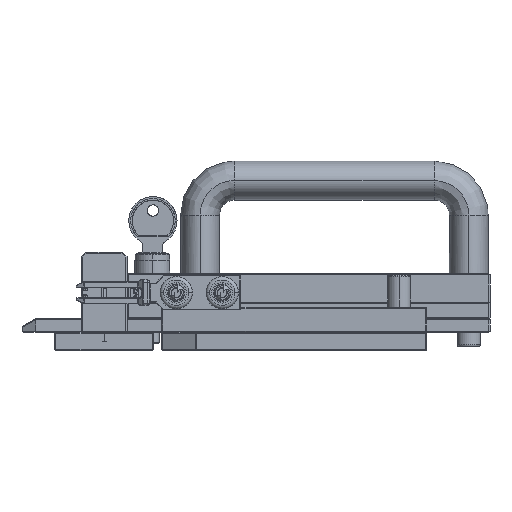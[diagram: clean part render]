
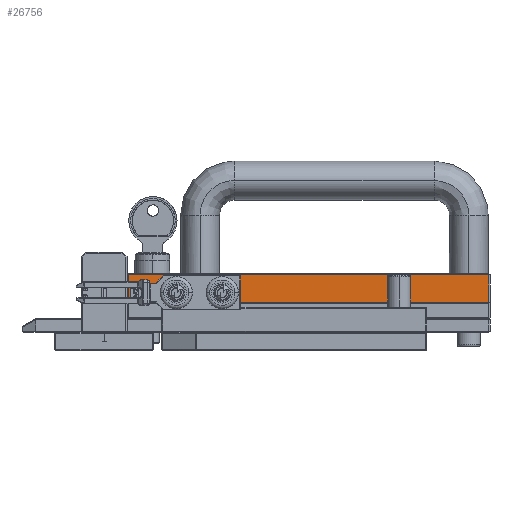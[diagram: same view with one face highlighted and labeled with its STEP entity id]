
A CAD part, front view. The second image highlights one B-rep face of the part: STEP entity #26756.
In plain terms, the highlighted planar face has unit normal (0, -1, 0) as drawn and (-1, 0, 0) by its records, which use the part's own axes.
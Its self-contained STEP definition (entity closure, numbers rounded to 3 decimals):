
#21516=DIRECTION('',(0.,0.,-1.));
#21517=VECTOR('',#21516,12.);
#21518=CARTESIAN_POINT('',(-13.,-54.875,-10.1));
#21519=LINE('',#21518,#21517);
#21523=DIRECTION('',(0.,1.,0.));
#21524=VECTOR('',#21523,157.);
#21525=CARTESIAN_POINT('',(-13.,-54.875,-22.1));
#21526=LINE('',#21525,#21524);
#21530=DIRECTION('',(0.,0.,-1.));
#21531=VECTOR('',#21530,12.);
#21532=CARTESIAN_POINT('',(-13.,102.125,-10.1));
#21533=LINE('',#21532,#21531);
#21537=DIRECTION('',(0.,1.,0.));
#21538=VECTOR('',#21537,157.);
#21539=CARTESIAN_POINT('',(-13.,-54.875,-10.1));
#21540=LINE('',#21539,#21538);
#21544=CARTESIAN_POINT('',(-13.,-13.975,-14.3));
#21545=DIRECTION('',(1.,0.,0.));
#21546=DIRECTION('',(0.,-1.,0.));
#21547=AXIS2_PLACEMENT_3D('',#21544,#21545,#21546);
#21552=CARTESIAN_POINT('',(-13.,-13.975,-14.3));
#21553=DIRECTION('',(1.,0.,0.));
#21554=DIRECTION('',(0.,1.,0.));
#21555=AXIS2_PLACEMENT_3D('',#21552,#21553,#21554);
#21560=CARTESIAN_POINT('',(-13.,-33.975,-14.3));
#21561=DIRECTION('',(1.,0.,0.));
#21562=DIRECTION('',(0.,-1.,0.));
#21563=AXIS2_PLACEMENT_3D('',#21560,#21561,#21562);
#21568=CARTESIAN_POINT('',(-13.,-33.975,-14.3));
#21569=DIRECTION('',(1.,0.,0.));
#21570=DIRECTION('',(0.,1.,0.));
#21571=AXIS2_PLACEMENT_3D('',#21568,#21569,#21570);
#24955=CARTESIAN_POINT('',(-13.,-54.875,-10.1));
#24956=CARTESIAN_POINT('',(-13.,-54.875,-22.1));
#24957=VERTEX_POINT('',#24955);
#24958=VERTEX_POINT('',#24956);
#24963=CARTESIAN_POINT('',(-13.,102.125,-10.1));
#24964=CARTESIAN_POINT('',(-13.,102.125,-22.1));
#24965=VERTEX_POINT('',#24963);
#24966=VERTEX_POINT('',#24964);
#25091=CARTESIAN_POINT('',(-13.,-16.125,-14.3));
#25092=CARTESIAN_POINT('',(-13.,-11.825,-14.3));
#25093=VERTEX_POINT('',#25091);
#25094=VERTEX_POINT('',#25092);
#25099=CARTESIAN_POINT('',(-13.,-36.125,-14.3));
#25100=CARTESIAN_POINT('',(-13.,-31.825,-14.3));
#25101=VERTEX_POINT('',#25099);
#25102=VERTEX_POINT('',#25100);
#26731=CARTESIAN_POINT('',(-13.,102.625,-22.6));
#26732=DIRECTION('',(-1.,0.,0.));
#26733=DIRECTION('',(0.,-1.,0.));
#26734=AXIS2_PLACEMENT_3D('',#26731,#26732,#26733);
#26735=PLANE('',#26734);
#26737=ORIENTED_EDGE('',*,*,#26736,.T.);
#26738=ORIENTED_EDGE('',*,*,#25722,.T.);
#26739=ORIENTED_EDGE('',*,*,#26719,.F.);
#26741=ORIENTED_EDGE('',*,*,#26740,.F.);
#26742=EDGE_LOOP('',(#26737,#26738,#26739,#26741));
#26743=FACE_OUTER_BOUND('',#26742,.F.);
#26745=ORIENTED_EDGE('',*,*,#26744,.F.);
#26747=ORIENTED_EDGE('',*,*,#26746,.F.);
#26748=EDGE_LOOP('',(#26745,#26747));
#26749=FACE_BOUND('',#26748,.F.);
#26751=ORIENTED_EDGE('',*,*,#26750,.F.);
#26753=ORIENTED_EDGE('',*,*,#26752,.F.);
#26754=EDGE_LOOP('',(#26751,#26753));
#26755=FACE_BOUND('',#26754,.F.);
#21548=CIRCLE('',#21547,2.15);
#21556=CIRCLE('',#21555,2.15);
#21564=CIRCLE('',#21563,2.15);
#21572=CIRCLE('',#21571,2.15);
#25722=EDGE_CURVE('',#24958,#24966,#21526,.T.);
#26719=EDGE_CURVE('',#24965,#24966,#21533,.T.);
#26736=EDGE_CURVE('',#24957,#24958,#21519,.T.);
#26740=EDGE_CURVE('',#24957,#24965,#21540,.T.);
#26744=EDGE_CURVE('',#25093,#25094,#21548,.T.);
#26746=EDGE_CURVE('',#25094,#25093,#21556,.T.);
#26750=EDGE_CURVE('',#25101,#25102,#21564,.T.);
#26752=EDGE_CURVE('',#25102,#25101,#21572,.T.);
#26756=ADVANCED_FACE('',(#26743,#26749,#26755),#26735,.T.);
